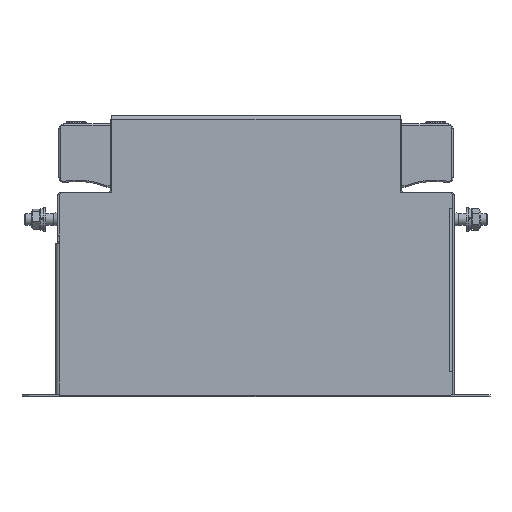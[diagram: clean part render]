
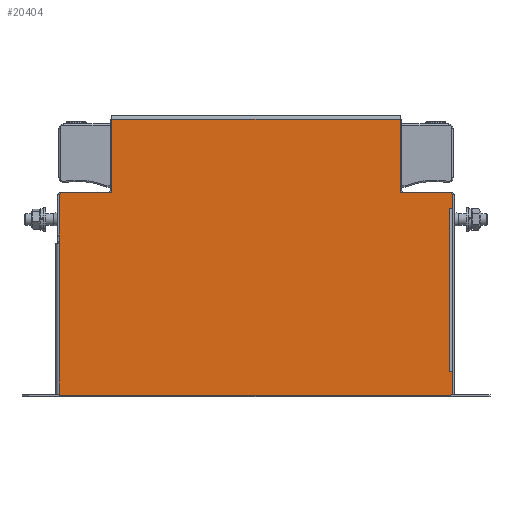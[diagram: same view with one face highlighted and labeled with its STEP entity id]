
A CAD part, top view. The second image highlights one B-rep face of the part: STEP entity #20404.
In plain terms, the highlighted planar face has unit normal (0, 0, 1).
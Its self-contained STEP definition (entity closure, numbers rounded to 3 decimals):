
#1995=LINE('',#33604,#3900);
#2001=LINE('',#33614,#3906);
#2003=LINE('',#33618,#3908);
#2006=LINE('',#33624,#3911);
#2017=LINE('',#33651,#3922);
#2018=LINE('',#33655,#3923);
#2024=LINE('',#33666,#3929);
#2025=LINE('',#33669,#3930);
#2028=LINE('',#33675,#3933);
#2032=LINE('',#33683,#3937);
#2036=LINE('',#33690,#3941);
#2047=LINE('',#33721,#3952);
#2050=LINE('',#33729,#3955);
#2051=LINE('',#33733,#3956);
#2057=LINE('',#33744,#3962);
#2058=LINE('',#33746,#3963);
#2060=LINE('',#33751,#3965);
#2064=LINE('',#33759,#3969);
#2068=LINE('',#33767,#3973);
#2077=LINE('',#33789,#3982);
#2079=LINE('',#33793,#3984);
#2082=LINE('',#33798,#3987);
#2083=LINE('',#33800,#3988);
#2102=LINE('',#33835,#4007);
#2104=LINE('',#33838,#4009);
#2107=LINE('',#33843,#4012);
#2108=LINE('',#33845,#4013);
#3900=VECTOR('',#27542,10.);
#3906=VECTOR('',#27550,10.);
#3908=VECTOR('',#27554,10.);
#3911=VECTOR('',#27559,10.);
#3922=VECTOR('',#27588,10.);
#3923=VECTOR('',#27591,10.);
#3929=VECTOR('',#27599,10.);
#3930=VECTOR('',#27602,10.);
#3933=VECTOR('',#27607,10.);
#3937=VECTOR('',#27613,10.);
#3941=VECTOR('',#27619,10.);
#3952=VECTOR('',#27658,10.);
#3955=VECTOR('',#27667,10.);
#3956=VECTOR('',#27670,10.);
#3962=VECTOR('',#27678,10.);
#3963=VECTOR('',#27681,10.);
#3965=VECTOR('',#27685,10.);
#3969=VECTOR('',#27691,10.);
#3973=VECTOR('',#27697,10.);
#3982=VECTOR('',#27724,10.);
#3984=VECTOR('',#27728,10.);
#3987=VECTOR('',#27733,10.);
#3988=VECTOR('',#27736,10.);
#4007=VECTOR('',#27773,10.);
#4009=VECTOR('',#27777,10.);
#4012=VECTOR('',#27782,10.);
#4013=VECTOR('',#27785,10.);
#4734=PLANE('',#22254);
#7173=FACE_OUTER_BOUND('',#8477,.T.);
#8477=EDGE_LOOP('',(#18883,#18884,#18885,#18886,#18887,#18888,#18889,#18890,
#18891,#18892,#18893,#18894,#18895,#18896,#18897,#18898,#18899,#18900,#18901,
#18902,#18903,#18904,#18905,#18906,#18907,#18908,#18909));
#10803=VERTEX_POINT('',#33601);
#10804=VERTEX_POINT('',#33603);
#10805=VERTEX_POINT('',#33608);
#10807=VERTEX_POINT('',#33612);
#10808=VERTEX_POINT('',#33616);
#10809=VERTEX_POINT('',#33621);
#10810=VERTEX_POINT('',#33623);
#10818=VERTEX_POINT('',#33653);
#10819=VERTEX_POINT('',#33654);
#10823=VERTEX_POINT('',#33663);
#10824=VERTEX_POINT('',#33668);
#10825=VERTEX_POINT('',#33673);
#10826=VERTEX_POINT('',#33674);
#10829=VERTEX_POINT('',#33682);
#10831=VERTEX_POINT('',#33688);
#10838=VERTEX_POINT('',#33725);
#10840=VERTEX_POINT('',#33731);
#10841=VERTEX_POINT('',#33732);
#10845=VERTEX_POINT('',#33741);
#10846=VERTEX_POINT('',#33749);
#10847=VERTEX_POINT('',#33750);
#10850=VERTEX_POINT('',#33758);
#10853=VERTEX_POINT('',#33765);
#10858=VERTEX_POINT('',#33791);
#10859=VERTEX_POINT('',#33795);
#10866=VERTEX_POINT('',#33833);
#10867=VERTEX_POINT('',#33840);
#13426=EDGE_CURVE('',#10803,#10804,#1995,.T.);
#13432=EDGE_CURVE('',#10805,#10807,#2001,.T.);
#13434=EDGE_CURVE('',#10807,#10808,#2003,.T.);
#13437=EDGE_CURVE('',#10810,#10809,#2006,.T.);
#13452=EDGE_CURVE('',#10809,#10805,#2017,.T.);
#13453=EDGE_CURVE('',#10818,#10819,#2018,.T.);
#13459=EDGE_CURVE('',#10823,#10818,#2024,.T.);
#13460=EDGE_CURVE('',#10819,#10824,#2025,.T.);
#13463=EDGE_CURVE('',#10825,#10826,#2028,.T.);
#13467=EDGE_CURVE('',#10829,#10825,#2032,.T.);
#13471=EDGE_CURVE('',#10826,#10831,#2036,.T.);
#13488=EDGE_CURVE('',#10831,#10823,#2047,.T.);
#13491=EDGE_CURVE('',#10804,#10838,#2050,.T.);
#13492=EDGE_CURVE('',#10840,#10841,#2051,.T.);
#13498=EDGE_CURVE('',#10845,#10840,#2057,.T.);
#13499=EDGE_CURVE('',#10841,#10838,#2058,.T.);
#13501=EDGE_CURVE('',#10846,#10847,#2060,.T.);
#13505=EDGE_CURVE('',#10850,#10846,#2064,.T.);
#13509=EDGE_CURVE('',#10847,#10853,#2068,.T.);
#13522=EDGE_CURVE('',#10853,#10845,#2077,.T.);
#13524=EDGE_CURVE('',#10858,#10824,#2079,.T.);
#13527=EDGE_CURVE('',#10850,#10859,#2082,.T.);
#13528=EDGE_CURVE('',#10859,#10808,#2083,.T.);
#13547=EDGE_CURVE('',#10829,#10866,#2102,.T.);
#13549=EDGE_CURVE('',#10866,#10803,#2104,.T.);
#13552=EDGE_CURVE('',#10867,#10810,#2107,.T.);
#13553=EDGE_CURVE('',#10867,#10858,#2108,.T.);
#18883=ORIENTED_EDGE('',*,*,#13553,.F.);
#18884=ORIENTED_EDGE('',*,*,#13552,.T.);
#18885=ORIENTED_EDGE('',*,*,#13437,.T.);
#18886=ORIENTED_EDGE('',*,*,#13452,.T.);
#18887=ORIENTED_EDGE('',*,*,#13432,.T.);
#18888=ORIENTED_EDGE('',*,*,#13434,.T.);
#18889=ORIENTED_EDGE('',*,*,#13528,.F.);
#18890=ORIENTED_EDGE('',*,*,#13527,.F.);
#18891=ORIENTED_EDGE('',*,*,#13505,.T.);
#18892=ORIENTED_EDGE('',*,*,#13501,.T.);
#18893=ORIENTED_EDGE('',*,*,#13509,.T.);
#18894=ORIENTED_EDGE('',*,*,#13522,.T.);
#18895=ORIENTED_EDGE('',*,*,#13498,.T.);
#18896=ORIENTED_EDGE('',*,*,#13492,.T.);
#18897=ORIENTED_EDGE('',*,*,#13499,.T.);
#18898=ORIENTED_EDGE('',*,*,#13491,.F.);
#18899=ORIENTED_EDGE('',*,*,#13426,.F.);
#18900=ORIENTED_EDGE('',*,*,#13549,.F.);
#18901=ORIENTED_EDGE('',*,*,#13547,.F.);
#18902=ORIENTED_EDGE('',*,*,#13467,.T.);
#18903=ORIENTED_EDGE('',*,*,#13463,.T.);
#18904=ORIENTED_EDGE('',*,*,#13471,.T.);
#18905=ORIENTED_EDGE('',*,*,#13488,.T.);
#18906=ORIENTED_EDGE('',*,*,#13459,.T.);
#18907=ORIENTED_EDGE('',*,*,#13453,.T.);
#18908=ORIENTED_EDGE('',*,*,#13460,.T.);
#18909=ORIENTED_EDGE('',*,*,#13524,.F.);
#20404=ADVANCED_FACE('',(#7173),#4734,.T.);
#22254=AXIS2_PLACEMENT_3D('',#33849,#27792,#27793);
#27542=DIRECTION('',(-1.,0.,0.));
#27550=DIRECTION('',(0.,-1.,0.));
#27554=DIRECTION('',(-1.,0.,0.));
#27559=DIRECTION('',(0.,1.,0.));
#27588=DIRECTION('',(-1.,0.,0.));
#27591=DIRECTION('',(0.,1.,0.));
#27599=DIRECTION('',(-1.,0.,0.));
#27602=DIRECTION('',(1.,0.,0.));
#27607=DIRECTION('',(0.,1.,0.));
#27613=DIRECTION('',(-1.,0.,0.));
#27619=DIRECTION('',(1.,0.,0.));
#27658=DIRECTION('',(0.,1.,0.));
#27667=DIRECTION('',(0.,1.,0.));
#27670=DIRECTION('',(0.,-1.,0.));
#27678=DIRECTION('',(1.,0.,0.));
#27681=DIRECTION('',(-1.,0.,0.));
#27685=DIRECTION('',(0.,-1.,0.));
#27691=DIRECTION('',(1.,0.,0.));
#27697=DIRECTION('',(-1.,0.,0.));
#27724=DIRECTION('',(0.,-1.,0.));
#27728=DIRECTION('',(0.,-1.,0.));
#27733=DIRECTION('',(0.,1.,0.));
#27736=DIRECTION('',(0.707,0.707,0.));
#27773=DIRECTION('',(0.,-1.,0.));
#27777=DIRECTION('',(-0.707,-0.707,0.));
#27782=DIRECTION('',(-1.,0.,0.));
#27785=DIRECTION('',(0.707,-0.707,0.));
#27792=DIRECTION('center_axis',(0.,0.,
1.));
#27793=DIRECTION('ref_axis',(1.,0.,0.));
#33601=CARTESIAN_POINT('',(83.1,0.5,22.45));
#33603=CARTESIAN_POINT('',(-84.1,0.5,22.45));
#33604=CARTESIAN_POINT('',(-83.3,0.5,22.45));
#33608=CARTESIAN_POINT('',(-61.7,118.5,22.45));
#33612=CARTESIAN_POINT('',(-61.7,87.3,22.45));
#33614=CARTESIAN_POINT('',(-61.7,90.125,22.45));
#33616=CARTESIAN_POINT('',(-83.1,87.3,22.45));
#33618=CARTESIAN_POINT('',(-30.85,87.3,22.45));
#33621=CARTESIAN_POINT('',(61.7,118.5,22.45));
#33623=CARTESIAN_POINT('',(61.7,87.3,22.45));
#33624=CARTESIAN_POINT('',(61.7,73.775,22.45));
#33651=CARTESIAN_POINT('',(30.85,118.5,22.45));
#33653=CARTESIAN_POINT('',(82.49,80.3,22.45));
#33654=CARTESIAN_POINT('',(82.49,80.31,22.45));
#33655=CARTESIAN_POINT('',(82.49,70.275,22.45));
#33663=CARTESIAN_POINT('',(82.5,80.3,22.45));
#33666=CARTESIAN_POINT('',(41.65,80.3,22.45));
#33668=CARTESIAN_POINT('',(84.1,80.31,22.45));
#33669=CARTESIAN_POINT('',(41.245,80.31,22.45));
#33673=CARTESIAN_POINT('',(82.49,10.49,22.45));
#33674=CARTESIAN_POINT('',(82.49,10.5,22.45));
#33675=CARTESIAN_POINT('',(82.49,35.37,22.45));
#33682=CARTESIAN_POINT('',(84.1,10.49,22.45));
#33683=CARTESIAN_POINT('',(41.65,10.49,22.45));
#33688=CARTESIAN_POINT('',(82.5,10.5,22.45));
#33690=CARTESIAN_POINT('',(41.245,10.5,22.45));
#33721=CARTESIAN_POINT('',(82.5,35.375,22.45));
#33725=CARTESIAN_POINT('',(-84.1,0.99,22.45));
#33729=CARTESIAN_POINT('',(-84.1,30.375,22.45));
#33731=CARTESIAN_POINT('',(-83.99,1.,22.45));
#33732=CARTESIAN_POINT('',(-83.99,0.99,22.45));
#33733=CARTESIAN_POINT('',(-83.99,30.625,22.45));
#33741=CARTESIAN_POINT('',(-84.,1.,22.45));
#33744=CARTESIAN_POINT('',(-42.4,1.,22.45));
#33746=CARTESIAN_POINT('',(-41.995,0.99,22.45));
#33749=CARTESIAN_POINT('',(-83.99,65.51,22.45));
#33750=CARTESIAN_POINT('',(-83.99,65.5,22.45));
#33751=CARTESIAN_POINT('',(-83.99,62.88,22.45));
#33758=CARTESIAN_POINT('',(-84.1,65.51,22.45));
#33759=CARTESIAN_POINT('',(-42.4,65.51,22.45));
#33765=CARTESIAN_POINT('',(-84.,65.5,22.45));
#33767=CARTESIAN_POINT('',(-41.995,65.5,22.45));
#33789=CARTESIAN_POINT('',(-84.,62.875,22.45));
#33791=CARTESIAN_POINT('',(84.1,86.3,22.45));
#33793=CARTESIAN_POINT('',(84.1,87.3,22.45));
#33795=CARTESIAN_POINT('',(-84.1,86.3,22.45));
#33798=CARTESIAN_POINT('',(-84.1,30.375,22.45));
#33800=CARTESIAN_POINT('',(-69.337,101.063,22.45));
#33833=CARTESIAN_POINT('',(84.1,1.5,22.45));
#33835=CARTESIAN_POINT('',(84.1,10.49,22.45));
#33838=CARTESIAN_POINT('',(77.512,-5.088,22.45));
#33840=CARTESIAN_POINT('',(83.1,87.3,22.45));
#33843=CARTESIAN_POINT('',(41.65,87.3,22.45));
#33845=CARTESIAN_POINT('',(69.338,101.062,22.45));
#33849=CARTESIAN_POINT('Origin',(0.,60.25,
22.45));
